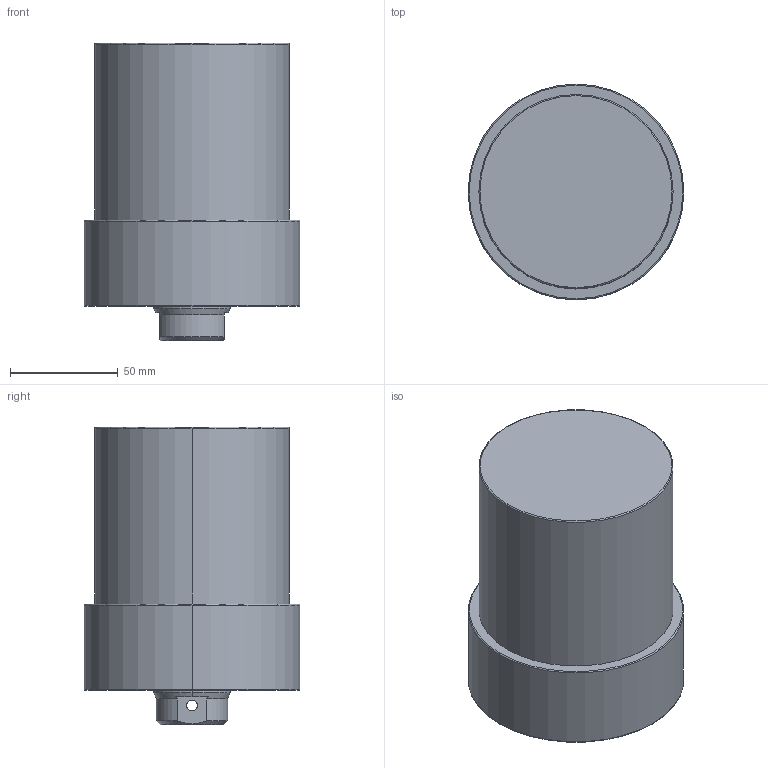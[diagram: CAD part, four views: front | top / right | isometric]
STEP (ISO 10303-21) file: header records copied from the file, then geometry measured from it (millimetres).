
FILE_DESCRIPTION (( 'STEP AP203' ), '1' );
FILE_NAME ('CLLU-090GB-060.STEP', '2020-01-11T00:59:57', ( '' ), ( '' ), 'SwSTEP 2.0', 'SolidWorks 2015', '' );
FILE_SCHEMA (( 'CONFIG_CONTROL_DESIGN' ));
Length unit declared in the file: millimetre
Products named in the file (1): CLLU-090GB-060
Bounding box: 100 x 100 x 138 mm (x, y, z)
Volume: 831121.3 mm3; surface area: 58157.5 mm2
Topology: 1 solids, 1 shells, 66 faces, 154 edges, 87 vertices
Faces by surface type: cylinder 26, cone 24, plane 10, torus 6
Entity records: 2029 total; most frequent: CARTESIAN_POINT 458, DIRECTION 342, ORIENTED_EDGE 288, EDGE_CURVE 144, AXIS2_PLACEMENT_3D 143, VERTEX_POINT 87, EDGE_LOOP 77, CIRCLE 76
